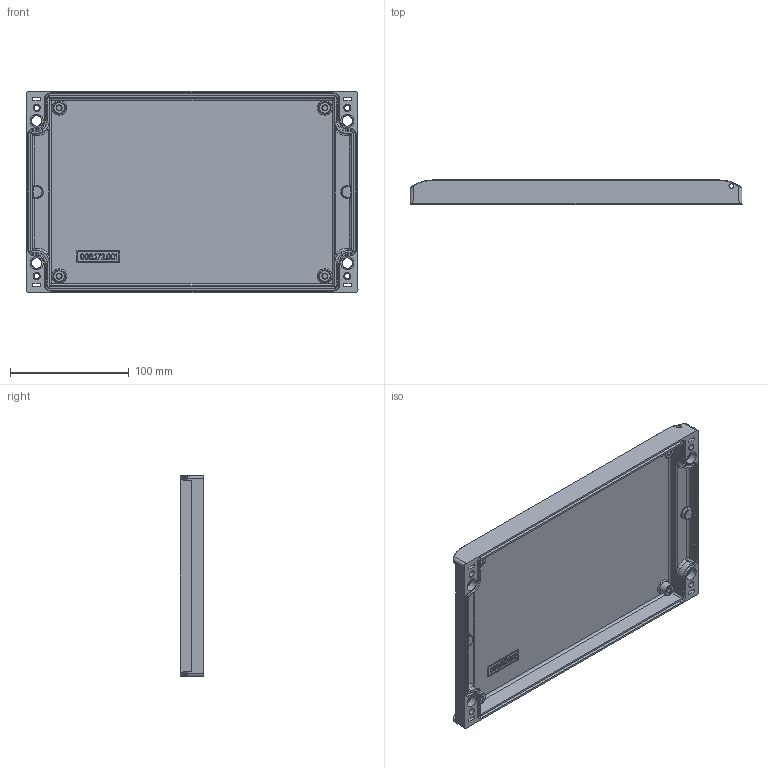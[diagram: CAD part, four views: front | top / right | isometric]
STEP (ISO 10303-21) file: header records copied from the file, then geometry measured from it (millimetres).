
FILE_DESCRIPTION(/* description */ ('VariCAD 2010-1.04 AP-203'),/* implementation_level */ '2;1');
FILE_NAME(/* name */ '0353-11-12',/* time_stamp */ '2010-01-25T18:44:56-07:00',/* author */ (''),/* organization */ (''),/* preprocessor_version */ 'ST-DEVELOPER v12',/* originating_system */ 'VariCAD 2010-1.04; kernel version (20090520)',/* authorisation */ '');
FILE_SCHEMA (('CONFIG_CONTROL_DESIGN'));
Products named in the file (1): Part
Bounding box: 280 x 20 x 170 mm (x, y, z)
Volume: 229803.5 mm3; surface area: 134803.7 mm2
Topology: 5 solids, 5 shells, 737 faces, 1899 edges, 1214 vertices
Faces by surface type: plane 443, bspline 244, cylinder 42, cone 8
Entity records: 151951 total; most frequent: CARTESIAN_POINT 135534, ORIENTED_EDGE 3798, DIRECTION 2501, EDGE_CURVE 1899, LINE 1379, VECTOR 1379, VERTEX_POINT 1214, EDGE_LOOP 815
